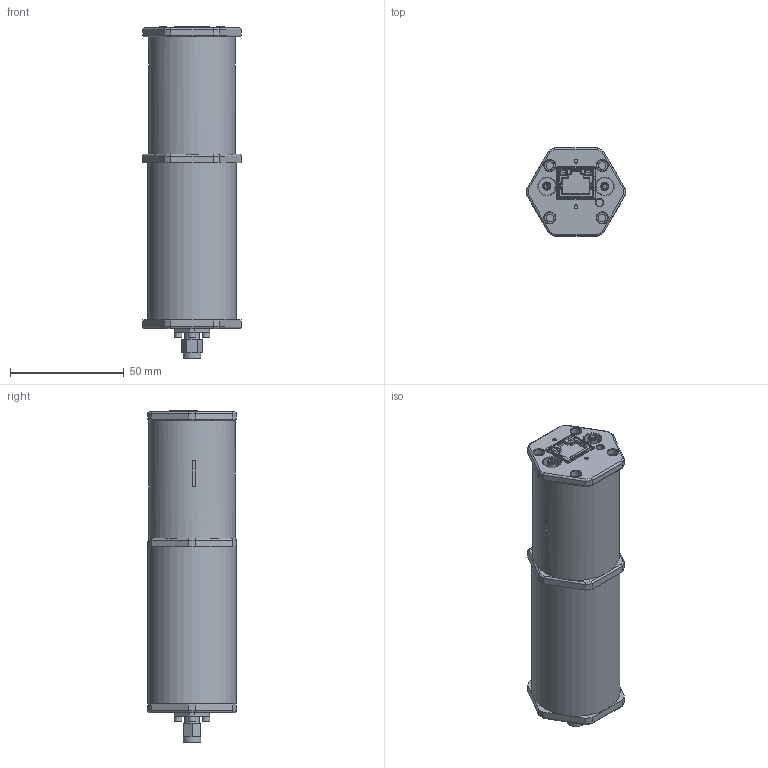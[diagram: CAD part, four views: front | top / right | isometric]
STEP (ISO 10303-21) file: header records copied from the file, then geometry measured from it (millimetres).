
FILE_DESCRIPTION(/* description */ (''),/* implementation_level */ '2;1');
FILE_NAME(/* name */ 'ETH Mechanical.step',/* time_stamp */ '2024-09-05T16:46:50-06:00',/* author */ (''),/* organization */ (''),/* preprocessor_version */ 'ST-DEVELOPER v20',/* originating_system */ 'Autodesk Translation Framework v13.14.0.145',/* authorisation */ '');
FILE_SCHEMA (('AUTOMOTIVE_DESIGN { 1 0 10303 214 3 1 1 }'));
Length unit declared in the file: inch
Products named in the file (14): Eith Mechanical; 1000-RFB-SMA; SMA M v1; 2250024-1; 2250024-1_PART9; 2250024-1_PART8; 2250024-1_PART7; 2250024-1_PART6; 2250024-1_PART5; 2250024-1_PART4; 2250024-1_PART3; 2250024-1_PART2; 2250024-1_PART1; SMB 90 M
Assembly tree (14 placements, depth 3):
  Eith Mechanical
    1000-RFB-SMA
      SMA M v1
    2250024-1
      2250024-1_PART9
      2250024-1_PART8
      2250024-1_PART7
      2250024-1_PART6
      2250024-1_PART5
      2250024-1_PART4
      2250024-1_PART3
      2250024-1_PART2
      2250024-1_PART1
    SMB 90 M  x2
Bounding box: 43.17 x 38.86 x 145.88 mm (x, y, z)
Volume: 152128.8 mm3; surface area: 28499.4 mm2
Topology: 17 solids, 434 shells, 1319 faces, 4510 edges, 3680 vertices
Faces by surface type: plane 777, cylinder 367, bspline 71, cone 40, torus 38, sphere 26
Full cylindrical faces by diameter (mm): 0.2 x2, 0.96 x2, 1.623 x2, 1.9 x2, 2.271 x9, 2.921 x1, 3 x4, 3.175 x1, 3.277 x4, 3.349 x2, 3.429 x4, 3.454 x4, 3.6 x4, 4.775 x8, 6.35 x4, 7.62 x4, 7.874 x1, 38.1 x1, 38.862 x1
Entity records: 56329 total; most frequent: CARTESIAN_POINT 18266, DIRECTION 7481, ORIENTED_EDGE 6269, EDGE_CURVE 4341, VERTEX_POINT 3583, LINE 2985, VECTOR 2985, AXIS2_PLACEMENT_3D 2248
